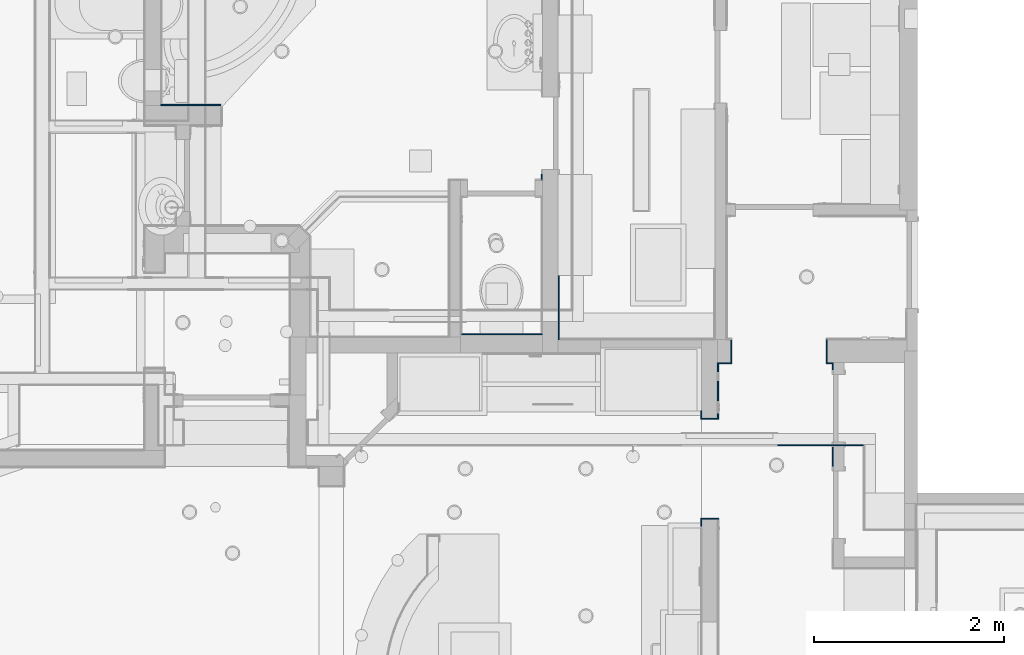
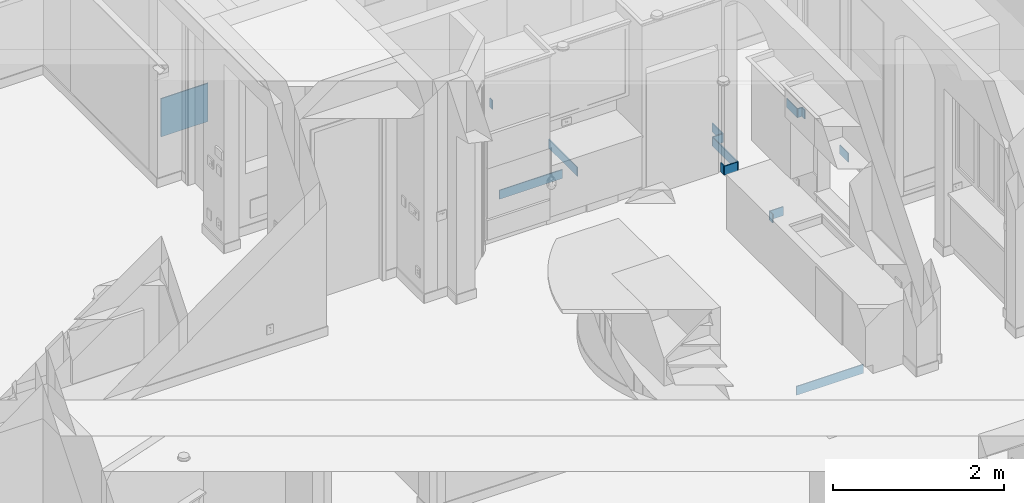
# One storey, part 25 of 81: 16 walls.
"""IFC2X3 building model written with IfcOpenShell, lengths in feet."""

from ifc_helpers import new_model, entity, si_unit, converted_unit, derived_unit, direction, frame, frame_2d, origin, place, context, subcontext, project, spatial, rectangle, extrude, material, layer, layer_set, layer_usage, type_object, element, save


model = new_model("IFC2X3")

# Units and contexts
model_context = context("Model", 3, precision=0.0001, world=origin(), true_north=direction((6.12303176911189e-17, 1.0)))
body_context = subcontext(model_context, "Body", "Model", "MODEL_VIEW")
ifc_project = project(units=[converted_unit("LENGTHUNIT", "FOOT", entity("IfcRatioMeasure", 0.3048), si_unit("LENGTHUNIT", "METRE"), dimensions=[1, 0, 0, 0, 0, 0, 0]), converted_unit("AREAUNIT", "SQUARE FOOT", entity("IfcRatioMeasure", 0.09290304), si_unit("AREAUNIT", "SQUARE_METRE"), dimensions=[2, 0, 0, 0, 0, 0, 0]), converted_unit("VOLUMEUNIT", "CUBIC FOOT", entity("IfcRatioMeasure", 0.028316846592), si_unit("VOLUMEUNIT", "CUBIC_METRE"), dimensions=[3, 0, 0, 0, 0, 0, 0]), converted_unit("PLANEANGLEUNIT", "DEGREE", entity("IfcRatioMeasure", 0.0174532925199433), si_unit("PLANEANGLEUNIT", "RADIAN"), dimensions=[0, 0, 0, 0, 0, 0, 0]), si_unit("MASSUNIT", "GRAM", prefix="KILO"), derived_unit("MASSDENSITYUNIT", [(si_unit("MASSUNIT", "GRAM", prefix="KILO"), 1), (si_unit("LENGTHUNIT", "METRE"), -3)]), derived_unit("MOMENTOFINERTIAUNIT", [(si_unit("LENGTHUNIT", "METRE"), 4)]), si_unit("TIMEUNIT", "SECOND"), si_unit("FREQUENCYUNIT", "HERTZ"), si_unit("THERMODYNAMICTEMPERATUREUNIT", "DEGREE_CELSIUS"), derived_unit("THERMALTRANSMITTANCEUNIT", [(si_unit("MASSUNIT", "GRAM", prefix="KILO"), 1), (si_unit("THERMODYNAMICTEMPERATUREUNIT", "KELVIN"), -1), (si_unit("TIMEUNIT", "SECOND"), -3)]), derived_unit("VOLUMETRICFLOWRATEUNIT", [(si_unit("LENGTHUNIT", "METRE"), 3), (si_unit("TIMEUNIT", "SECOND"), -1)]), si_unit("ELECTRICCURRENTUNIT", "AMPERE"), si_unit("ELECTRICVOLTAGEUNIT", "VOLT"), si_unit("POWERUNIT", "WATT"), si_unit("FORCEUNIT", "NEWTON"), si_unit("ILLUMINANCEUNIT", "LUX"), si_unit("LUMINOUSFLUXUNIT", "LUMEN"), si_unit("LUMINOUSINTENSITYUNIT", "CANDELA"), derived_unit("USERDEFINED", [(si_unit("MASSUNIT", "GRAM", prefix="KILO"), -1), (si_unit("LENGTHUNIT", "METRE"), -2), (si_unit("TIMEUNIT", "SECOND"), 3), (si_unit("LUMINOUSFLUXUNIT", "LUMEN"), 1)]), derived_unit("LINEARVELOCITYUNIT", [(si_unit("LENGTHUNIT", "METRE"), 1), (si_unit("TIMEUNIT", "SECOND"), -1)]), si_unit("PRESSUREUNIT", "PASCAL"), derived_unit("USERDEFINED", [(si_unit("LENGTHUNIT", "METRE"), -2), (si_unit("MASSUNIT", "GRAM", prefix="KILO"), 1), (si_unit("TIMEUNIT", "SECOND"), -2)]), derived_unit("LINEARFORCEUNIT", [(si_unit("MASSUNIT", "GRAM", prefix="KILO"), 1), (si_unit("LENGTHUNIT", "METRE"), 1), (si_unit("TIMEUNIT", "SECOND"), -2), (si_unit("LENGTHUNIT", "METRE"), -1)]), derived_unit("PLANARFORCEUNIT", [(si_unit("MASSUNIT", "GRAM", prefix="KILO"), 1), (si_unit("LENGTHUNIT", "METRE"), 1), (si_unit("TIMEUNIT", "SECOND"), -2), (si_unit("LENGTHUNIT", "METRE"), -2)])], contexts=[model_context])

# Site, building, storey
site_placement = place(None, origin())
site = spatial("IfcSite", under=ifc_project, at=site_placement, Name="Default", CompositionType="ELEMENT")
building_placement = place(site_placement, origin())
building = spatial("IfcBuilding", under=site, at=building_placement, CompositionType="ELEMENT")
storey_placement = place(building_placement, origin())
storey = spatial("IfcBuildingStorey", under=building, at=storey_placement, Name="First floor", CompositionType="ELEMENT", Elevation=0.0)

# Walls
ifc_material = material(Name="Default New Material")
ifc_layer = layer(ifc_material, 0.0416666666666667)
ifc_layer_set = layer_set([ifc_layer], Name="Basic Wall:Wall Border_T1")
ifc_layer_usage_1 = layer_usage(ifc_layer_set, "AXIS2", "POSITIVE", -0.0208333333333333)
wall_type = type_object("IfcWallType", Name="Basic Wall:Wall Border_T1", PredefinedType="STANDARD", material=ifc_layer_set)
wall_1_placement = place(storey_placement, frame((15.5416666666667, 29.7708333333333, 0.0)))
element("IfcWallStandardCase", 1, at=wall_1_placement, inside=storey, type_object=wall_type, material=ifc_layer_usage_1, Name="Basic Wall:Wall Border_T1", ObjectType="Basic Wall:Wall Border_T1", context=body_context, shape_type="SweptSolid", body=[
    extrude(rectangle(XDim=2.95833333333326, YDim=0.0416666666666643, at=frame_2d((1.47916666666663, -7.45931094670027e-17), x_axis=(-1.0, 0.0))), origin(), (0.0, 0.0, 1.0), 0.416666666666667),
])
ifc_layer_usage_2 = layer_usage(ifc_layer_set, "AXIS2", "NEGATIVE", 0.0208333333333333)
wall_2_placement = place(storey_placement, frame((17.2291666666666, 33.4163215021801, 10.6666666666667), z_axis=(0.0, 0.0, 1.0), x_axis=(0.0, -1.0, 0.0)))
element("IfcWallStandardCase", 2, at=wall_2_placement, inside=storey, type_object=wall_type, material=ifc_layer_usage_2, Name="Basic Wall:Wall Border_T1", ObjectType="Basic Wall:Wall Border_T1", context=body_context, shape_type="SweptSolid", body=[
    extrude(rectangle(XDim=0.833333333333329, YDim=0.0416666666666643, at=frame_2d((0.416666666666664, -4.23272528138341e-16), x_axis=(-1.0, 0.0))), origin(), (0.0, 0.0, 1.0), 0.416666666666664),
])
ifc_layer_usage_3 = layer_usage(ifc_layer_set, "AXIS2", "NEGATIVE", 0.0208333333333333)
wall_3_placement = place(storey_placement, frame((17.25, 32.6038215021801, 10.6666666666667)))
element("IfcWallStandardCase", 3, at=wall_3_placement, inside=storey, type_object=wall_type, material=ifc_layer_usage_3, Name="Basic Wall:Wall Border_T1", ObjectType="Basic Wall:Wall Border_T1", context=body_context, shape_type="SweptSolid", body=[
    extrude(rectangle(XDim=0.208333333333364, YDim=0.0416666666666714, at=frame_2d((0.104166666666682, 5.88071258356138e-16), x_axis=(-1.0, 0.0))), origin(), (0.0, 0.0, 1.0), 0.416666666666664),
])
ifc_layer_usage_4 = layer_usage(ifc_layer_set, "AXIS2", "NEGATIVE", 0.0208333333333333)
wall_4_placement = place(storey_placement, frame((17.4375, 32.5829881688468, 10.6666666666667), z_axis=(0.0, 0.0, 1.0), x_axis=(0.0, -1.0, 0.0)))
element("IfcWallStandardCase", 4, at=wall_4_placement, inside=storey, type_object=wall_type, material=ifc_layer_usage_4, Name="Basic Wall:Wall Border_T1", ObjectType="Basic Wall:Wall Border_T1", context=body_context, shape_type="SweptSolid", body=[
    extrude(rectangle(XDim=0.208333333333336, YDim=0.0416666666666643, at=frame_2d((0.104166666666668, 0.0), x_axis=(-1.0, 0.0))), origin(), (0.0, 0.0, 1.0), 0.416666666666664),
])
ifc_layer_usage_5 = layer_usage(ifc_layer_set, "AXIS2", "NEGATIVE", 0.0208333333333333)
wall_5_placement = place(storey_placement, frame((17.4375, 29.7079881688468, 10.6666666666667), z_axis=(0.0, 0.0, 1.0), x_axis=(0.0, -1.0, 0.0)))
element("IfcWallStandardCase", 5, at=wall_5_placement, inside=storey, type_object=wall_type, material=ifc_layer_usage_5, Name="Basic Wall:Wall Border_T1", ObjectType="Basic Wall:Wall Border_T1", context=body_context, shape_type="SweptSolid", body=[
    extrude(rectangle(XDim=0.666666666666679, YDim=0.0416666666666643, at=frame_2d((0.333333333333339, 0.0), x_axis=(-1.0, 0.0))), origin(), (0.0, 0.0, 1.0), 0.416666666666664),
])
ifc_layer_usage_6 = layer_usage(ifc_layer_set, "AXIS2", "NEGATIVE", 0.0208333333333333)
wall_6_placement = place(storey_placement, frame((13.9375, 33.4163215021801, 10.6666666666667), z_axis=(0.0, 0.0, 1.0), x_axis=(0.0, -1.0, 0.0)))
element("IfcWallStandardCase", 6, at=wall_6_placement, inside=storey, type_object=wall_type, material=ifc_layer_usage_6, Name="Basic Wall:Wall Border_T1", ObjectType="Basic Wall:Wall Border_T1", context=body_context, shape_type="SweptSolid", body=[
    extrude(rectangle(XDim=0.833333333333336, YDim=0.0416666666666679, at=frame_2d((0.416666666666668, 3.52148865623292e-16), x_axis=(-1.0, 0.0))), origin(), (0.0, 0.0, 1.0), 0.416666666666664),
])
ifc_layer_usage_7 = layer_usage(ifc_layer_set, "AXIS2", "NEGATIVE", 0.0208333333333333)
wall_7_placement = place(storey_placement, frame((13.9166666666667, 32.6038215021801, 10.6666666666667), z_axis=(0.0, 0.0, 1.0), x_axis=(-1.0, 0.0, 0.0)))
element("IfcWallStandardCase", 7, at=wall_7_placement, inside=storey, type_object=wall_type, material=ifc_layer_usage_7, Name="Basic Wall:Wall Border_T1", ObjectType="Basic Wall:Wall Border_T1", context=body_context, shape_type="SweptSolid", body=[
    extrude(rectangle(XDim=0.458333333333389, YDim=0.0416666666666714, at=frame_2d((0.229166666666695, 0.0), x_axis=(-1.0, 0.0))), origin(), (0.0, 0.0, 1.0), 0.416666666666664),
])
ifc_layer_usage_8 = layer_usage(ifc_layer_set, "AXIS2", "NEGATIVE", 0.0208333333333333)
wall_8_placement = place(storey_placement, frame((13.4791666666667, 32.5829881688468, 10.6666666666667), z_axis=(0.0, 0.0, 1.0), x_axis=(0.0, -1.0, 0.0)))
element("IfcWallStandardCase", 8, at=wall_8_placement, inside=storey, type_object=wall_type, material=ifc_layer_usage_8, Name="Basic Wall:Wall Border_T1", ObjectType="Basic Wall:Wall Border_T1", context=body_context, shape_type="SweptSolid", body=[
    extrude(rectangle(XDim=1.91666666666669, YDim=0.0416666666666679, at=frame_2d((0.958333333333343, 0.0), x_axis=(-1.0, 0.0))), origin(), (0.0, 0.0, 1.0), 0.416666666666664),
])
ifc_layer_usage_9 = layer_usage(ifc_layer_set, "AXIS2", "NEGATIVE", 0.0208333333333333)
wall_9_placement = place(storey_placement, frame((12.875, 27.2288215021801, 10.6666666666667)))
element("IfcWallStandardCase", 9, at=wall_9_placement, inside=storey, type_object=wall_type, material=ifc_layer_usage_9, Name="Basic Wall:Wall Border_T1", ObjectType="Basic Wall:Wall Border_T1", context=body_context, shape_type="SweptSolid", body=[
    extrude(rectangle(XDim=0.625000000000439, YDim=0.0416666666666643, at=frame_2d((0.312500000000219, 1.04777297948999e-15), x_axis=(-1.0, 0.0))), origin(), (0.0, 0.0, 1.0), 0.416666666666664),
])
ifc_layer_usage_10 = layer_usage(ifc_layer_set, "AXIS2", "NEGATIVE", 0.0208333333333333)
wall_10_placement = place(storey_placement, frame((-3.6875, 41.5204881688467, 12.4166666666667), z_axis=(0.0, 0.0, 1.0), x_axis=(-1.0, 0.0, 0.0)))
element("IfcWallStandardCase", 10, at=wall_10_placement, inside=storey, type_object=wall_type, material=ifc_layer_usage_10, Name="Basic Wall:Wall Border_T1", ObjectType="Basic Wall:Wall Border_T1", context=body_context, shape_type="SweptSolid", body=[
    extrude(rectangle(XDim=2.08333333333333, YDim=0.0416666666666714, at=frame_2d((1.04166666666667, -3.64291929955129e-17), x_axis=(-1.0, 0.0))), origin(), (0.0, 0.0, 1.0), 1.79166666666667),
])
ifc_layer_usage_11 = layer_usage(ifc_layer_set, "AXIS2", "NEGATIVE", 0.0208333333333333)
wall_11_placement = place(storey_placement, frame((7.39583333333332, 39.1246548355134, 10.6666666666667), z_axis=(0.0, 0.0, 1.0), x_axis=(0.0, -1.0, 0.0)))
element("IfcWallStandardCase", 11, at=wall_11_placement, inside=storey, type_object=wall_type, material=ifc_layer_usage_11, Name="Basic Wall:Wall Border_T1", ObjectType="Basic Wall:Wall Border_T1", context=body_context, shape_type="SweptSolid", body=[
    extrude(rectangle(XDim=0.208333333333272, YDim=0.0416666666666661, at=frame_2d((0.104166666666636, 4.85722573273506e-17), x_axis=(-1.0, 0.0))), origin(), (0.0, 0.0, 1.0), 0.416666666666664),
])
ifc_layer_usage_12 = layer_usage(ifc_layer_set, "AXIS2", "NEGATIVE", 0.0208333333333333)
wall_12_placement = place(storey_placement, frame((4.62499999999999, 33.6041666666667, 10.6666666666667)))
element("IfcWallStandardCase", 12, at=wall_12_placement, inside=storey, type_object=wall_type, material=ifc_layer_usage_12, Name="Basic Wall:Wall Border_T1", ObjectType="Basic Wall:Wall Border_T1", context=body_context, shape_type="SweptSolid", body=[
    extrude(rectangle(XDim=2.79166666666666, YDim=0.0416666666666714, at=frame_2d((1.39583333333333, 0.0), x_axis=(-1.0, 0.0))), origin(), (0.0, 0.0, 1.0), 0.416666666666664),
])
ifc_layer_usage_13 = layer_usage(ifc_layer_set, "AXIS2", "NEGATIVE", 0.0208333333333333)
wall_13_placement = place(storey_placement, frame((7.97916666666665, 35.6246548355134, 10.6666666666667), z_axis=(0.0, 0.0, 1.0), x_axis=(0.0, -1.0, 0.0)))
element("IfcWallStandardCase", 13, at=wall_13_placement, inside=storey, type_object=wall_type, material=ifc_layer_usage_13, Name="Basic Wall:Wall Border_T1", ObjectType="Basic Wall:Wall Border_T1", context=body_context, shape_type="SweptSolid", body=[
    extrude(rectangle(XDim=2.20798816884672, YDim=0.0416666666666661, at=frame_2d((1.10399408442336, 3.46944695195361e-17), x_axis=(-1.0, 0.0))), origin(), (0.0, 0.0, 1.0), 0.416666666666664),
])
ifc_layer_usage_14 = layer_usage(ifc_layer_set, "AXIS2", "NEGATIVE", 0.0208333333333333)
wall_14_placement = place(storey_placement, frame((13.4583333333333, 30.6871548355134, 10.6666666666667), z_axis=(0.0, 0.0, 1.0), x_axis=(-1.0, 0.0, 0.0)))
element("IfcWallStandardCase", 14, at=wall_14_placement, inside=storey, type_object=wall_type, material=ifc_layer_usage_14, Name="Basic Wall:Wall Border_T1", ObjectType="Basic Wall:Wall Border_T1", context=body_context, shape_type="SweptSolid", body=[
    extrude(rectangle(XDim=0.583333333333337, YDim=0.0416666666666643, at=frame_2d((0.291666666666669, 0.0), x_axis=(-1.0, 0.0))), origin(), (0.0, 0.0, 1.0), 0.416666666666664),
])
ifc_layer_usage_15 = layer_usage(ifc_layer_set, "AXIS2", "NEGATIVE", 0.0208333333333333)
wall_15_placement = place(storey_placement, frame((12.8958333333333, 30.7079881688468, 10.6666666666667), z_axis=(0.0, 0.0, 1.0), x_axis=(0.0, 1.0, 0.0)))
element("IfcWallStandardCase", 15, at=wall_15_placement, inside=storey, type_object=wall_type, material=ifc_layer_usage_15, Name="Basic Wall:Wall Border_T1", ObjectType="Basic Wall:Wall Border_T1", context=body_context, shape_type="SweptSolid", body=[
    extrude(rectangle(XDim=0.250345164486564, YDim=0.0416666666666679, at=frame_2d((0.125172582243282, 0.0), x_axis=(-1.0, 0.0))), origin(), (0.0, 0.0, 1.0), 0.416666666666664),
])
ifc_layer_usage_16 = layer_usage(ifc_layer_set, "AXIS2", "NEGATIVE", 0.0208333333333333)
wall_16_placement = place(storey_placement, frame((12.8958333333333, 27.2079881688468, 10.6666666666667), z_axis=(0.0, 0.0, 1.0), x_axis=(0.0, -1.0, 0.0)))
element("IfcWallStandardCase", 16, at=wall_16_placement, inside=storey, type_object=wall_type, material=ifc_layer_usage_16, Name="Basic Wall:Wall Border_T1", ObjectType="Basic Wall:Wall Border_T1", context=body_context, shape_type="SweptSolid", body=[
    extrude(rectangle(XDim=0.229166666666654, YDim=0.0416666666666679, at=frame_2d((0.114583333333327, -8.15320033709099e-16), x_axis=(-1.0, 0.0))), origin(), (0.0, 0.0, 1.0), 0.416666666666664),
])

save(model, "model.ifc")
